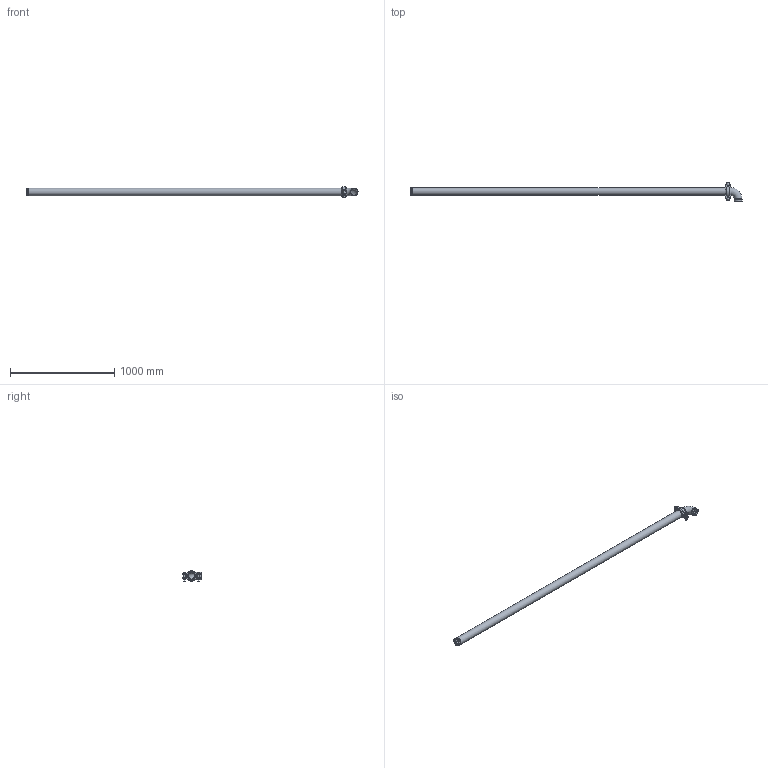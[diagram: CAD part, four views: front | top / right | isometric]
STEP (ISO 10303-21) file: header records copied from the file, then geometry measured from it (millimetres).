
FILE_DESCRIPTION(/* description */ ('VIC LONG RUN FITTING No R13 (OGS)','CAx-IF Rec.Pracs.---Representation and Presentation of Product Manufacturing Information (PMI)---4.0---2014-10-13'),/* implementation_level */ '2;1');
FILE_NAME(/* name */ 'C:\Users\Vjadhav\AppData\Roaming\Autodesk\ApplicationPlugins\Back Up\Victaulic_IPS_Long Run Fittings_No R13 (OGS)\Victaulic_IPS_Long Run Fittings_No R13 (OGS)_2.5 (65).stp',/* time_stamp */ '2020-10-06T18:26:29+06:00',/* author */ ('Vjadhav'),/* organization */ ('Victaulic'),/* preprocessor_version */ 'ST-DEVELOPER v17.2',/* originating_system */ 'Autodesk Inventor 2019',/* authorisation */ '');
FILE_SCHEMA (('AP242_MANAGED_MODEL_BASED_3D_ENGINEERING_MIM_LF { 1 0 10303 442 1 1 4 }'));
Length unit declared in the file: inch
Products named in the file (4): R13-02.5; 010-02.5; 107N-02.5; Pipe_R13-02.5
Assembly tree (3 placements, depth 2):
  R13-02.5
    010-02.5
    107N-02.5
    Pipe_R13-02.5
Bounding box: 3183.57 x 180.97 x 102.11 mm (x, y, z)
Volume: 3803392.5 mm3; surface area: 1433723.8 mm2
Topology: 3 solids, 3 shells, 149 faces, 383 edges, 256 vertices
Faces by surface type: plane 62, cylinder 57, bspline 18, torus 6, cone 4, sphere 2
Full cylindrical faces by diameter (mm): 12.7 x4, 22.225 x2, 60.325 x1, 62.713 x3, 69.088 x4, 73.025 x7
Entity records: 5612 total; most frequent: CARTESIAN_POINT 1583, DIRECTION 805, ORIENTED_EDGE 766, EDGE_CURVE 383, AXIS2_PLACEMENT_3D 316, VERTEX_POINT 256, EDGE_LOOP 175, LINE 173
